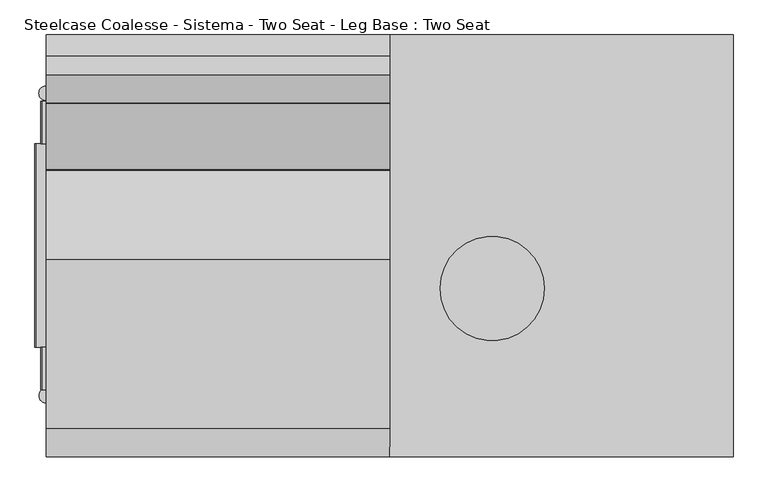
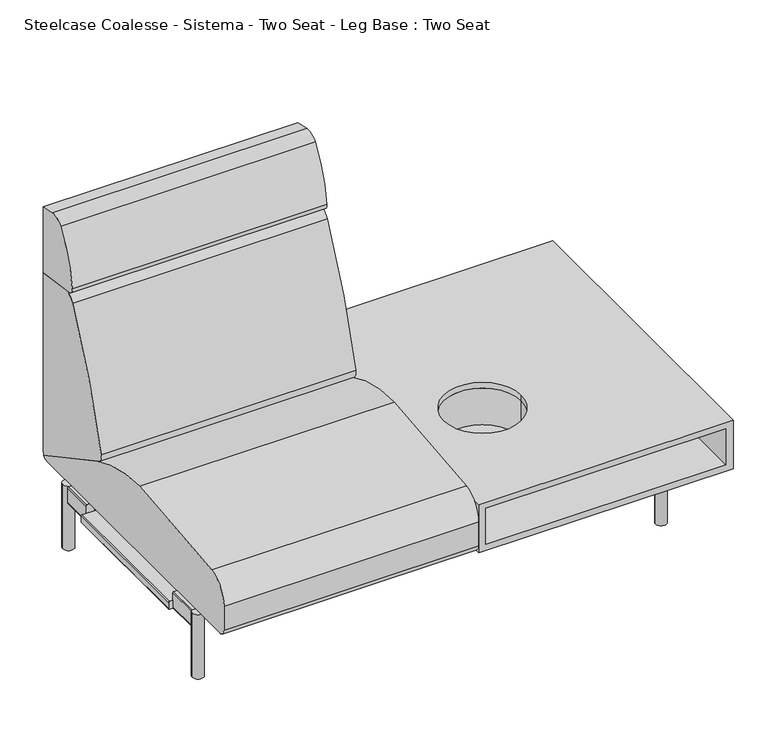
"""IFC4 building model written with IfcOpenShell, lengths in millimetres: furniture geometry, Steelcase Coalesse - Sistema - Two Seat - Leg Base : Two Seat."""

import ifcopenshell
import ifcopenshell.guid

model = None  # the IFC model being written
_history = None  # IfcOwnerHistory: only IFC2X3 demands one
_inside = {}  # id of a spatial element -> (the spatial element, [elements in it])
_under = {}  # id of a project, library or spatial element -> (it, [spatial elements below it])
_declared = {}  # id of a project -> (the project, [libraries it declares])
_typed = {}  # id of a type object -> (the type object, [elements of that type])
_made_of = {}  # id of a material, layer set ... -> (it, [elements and type objects made of it])


def new_model(schema):
    """Start an empty IFC model of exactly this schema.

    Asked for "IFC4X3", IfcOpenShell would pick the latest addendum, in which some entities
    have other attributes; the version numbers below select the first issue.
    IFC2X3 requires an IfcOwnerHistory on every rooted entity: one is made here for all.
    """
    global model, _history
    if schema == "IFC4X3":
        model = ifcopenshell.file(schema_version=(4, 3, 0, 0))
    else:
        model = ifcopenshell.file(schema=schema)
    _inside.clear()
    _under.clear()
    _declared.clear()
    _typed.clear()
    _made_of.clear()
    _history = None
    if model.schema == "IFC2X3":
        org = make("IfcOrganization", Name="unknown")
        user = make(
            "IfcPersonAndOrganization",
            ThePerson=make("IfcPerson", FamilyName="unknown"),
            TheOrganization=org,
        )
        app = make(
            "IfcApplication",
            ApplicationDeveloper=org,
            Version="unknown",
            ApplicationFullName="unknown",
            ApplicationIdentifier="unknown",
        )
        _history = make(
            "IfcOwnerHistory",
            OwningUser=user,
            OwningApplication=app,
            ChangeAction="ADDED",
            CreationDate=0,
        )
    return model


def make(cls, **values):
    """One entity of the class cls with the attributes given. An attribute that is None is left unset."""
    return model.create_entity(
        cls, **{name: value for name, value in values.items() if value is not None}
    )


def rooted(cls, **values):
    """An entity with a GlobalId (a new one), such as an element, a storey or a relation."""
    return make(cls, GlobalId=ifcopenshell.guid.new(), OwnerHistory=_history, **values)


def si_unit(unit_type, name, prefix=None):
    """IfcSIUnit, for example si_unit("LENGTHUNIT", "METRE", prefix="MILLI")."""
    return make("IfcSIUnit", UnitType=unit_type, Prefix=prefix, Name=name)


def assignment(units):
    """IfcUnitAssignment: the units of a project."""
    return None if units is None else make("IfcUnitAssignment", Units=units)


def point(xyz):
    """IfcCartesianPoint."""
    return None if xyz is None else make("IfcCartesianPoint", Coordinates=xyz)


def direction(xyz):
    """IfcDirection."""
    return None if xyz is None else make("IfcDirection", DirectionRatios=xyz)


def frame(location, z_axis=None, x_axis=None):
    """IfcAxis2Placement3D, a coordinate frame: its origin and axes. An axis left out is left unset."""
    return make(
        "IfcAxis2Placement3D",
        Location=point(location),
        Axis=direction(z_axis),
        RefDirection=direction(x_axis),
    )


def frame_2d(location, x_axis=None):
    """IfcAxis2Placement2D, a coordinate frame in the plane: its origin and x axis."""
    return make(
        "IfcAxis2Placement2D", Location=point(location), RefDirection=direction(x_axis)
    )


def origin():
    """The frame at (0, 0, 0) with its axes left unset."""
    return frame((0.0, 0.0, 0.0))


def origin_with_axes():
    """The frame at (0, 0, 0) with the z axis (0, 0, 1) and the x axis (1, 0, 0) written out."""
    return frame((0.0, 0.0, 0.0), z_axis=(0.0, 0.0, 1.0), x_axis=(1.0, 0.0, 0.0))


def place(relative_to, where):
    """IfcLocalPlacement: puts the frame where relative to a parent placement (None: the world)."""
    return make(
        "IfcLocalPlacement", PlacementRelTo=relative_to, RelativePlacement=where
    )


def context(
    kind, dimensions, precision=None, world=None, true_north=None, identifier=None
):
    """IfcGeometricRepresentationContext, for example the 3D "Model" context."""
    return make(
        "IfcGeometricRepresentationContext",
        ContextIdentifier=identifier,
        ContextType=kind,
        CoordinateSpaceDimension=dimensions,
        Precision=precision,
        WorldCoordinateSystem=world,
        TrueNorth=true_north,
    )


def project(units=None, contexts=None):
    """IfcProject with its units and contexts."""
    return rooted(
        "IfcProject",
        Name="project",
        RepresentationContexts=contexts,
        UnitsInContext=assignment(units),
    )


def spatial(cls, under=None, at=None, **own):
    """A site, building, storey or space (cls), placed at a placement, below another one or the project."""
    s = rooted(cls, ObjectPlacement=at, **own)
    if under is not None:
        _under.setdefault(under.id(), (under, []))[1].append(s)
    return s


def polyline(points):
    """IfcPolyline through the points."""
    return make("IfcPolyline", Points=[point(p) for p in points])


def circle_curve(where, radius):
    """IfcCircle in the frame where."""
    return make("IfcCircle", Position=where, Radius=radius)


def trimmed(basis, trim1, trim2, sense, master):
    """IfcTrimmedCurve: the piece of a basis curve between two trims."""
    return make(
        "IfcTrimmedCurve",
        BasisCurve=basis,
        Trim1=trim1,
        Trim2=trim2,
        SenseAgreement=sense,
        MasterRepresentation=master,
    )


def segment(curve, same_sense, transition):
    """IfcCompositeCurveSegment."""
    return make(
        "IfcCompositeCurveSegment",
        Transition=transition,
        SameSense=same_sense,
        ParentCurve=curve,
    )


def composite_curve(segments, self_intersect=None):
    """IfcCompositeCurve: segments joined end to end."""
    return make("IfcCompositeCurve", Segments=segments, SelfIntersect=self_intersect)


def outline(outer, holes=None, kind="AREA"):
    """IfcArbitraryClosedProfileDef: a profile drawn as a closed curve; with holes, ...WithVoids."""
    if holes is None:
        return make("IfcArbitraryClosedProfileDef", ProfileType=kind, OuterCurve=outer)
    return make(
        "IfcArbitraryProfileDefWithVoids",
        ProfileType=kind,
        OuterCurve=outer,
        InnerCurves=holes,
    )


def extrude(swept, where, along, depth):
    """IfcExtrudedAreaSolid: the profile swept, set in the frame where, extruded along a direction by depth."""
    return make(
        "IfcExtrudedAreaSolid",
        SweptArea=swept,
        Position=where,
        ExtrudedDirection=direction(along),
        Depth=depth,
    )


def shape(context_of_items, identifier, shape_type, items):
    """IfcShapeRepresentation: the items that make up one representation, for example the "Body"."""
    return make(
        "IfcShapeRepresentation",
        ContextOfItems=context_of_items,
        RepresentationIdentifier=identifier,
        RepresentationType=shape_type,
        Items=items,
    )


def source(mapping_origin, context_of_items, identifier, shape_type, items):
    """IfcRepresentationMap: a shape defined once, which mapped items show again and again."""
    return make(
        "IfcRepresentationMap",
        MappingOrigin=mapping_origin,
        MappedRepresentation=shape(context_of_items, identifier, shape_type, items),
    )


def transform(
    local_origin,
    x_axis=None,
    y_axis=None,
    z_axis=None,
    scale=None,
    scale2=None,
    scale3=None,
    uniform=True,
):
    """IfcCartesianTransformationOperator3D, or its non-uniform kind. x_axis, y_axis, z_axis: its Axis1, 2, 3."""
    if uniform:
        return make(
            "IfcCartesianTransformationOperator3D",
            Axis1=direction(x_axis),
            Axis2=direction(y_axis),
            LocalOrigin=point(local_origin),
            Scale=scale,
            Axis3=direction(z_axis),
        )
    return make(
        "IfcCartesianTransformationOperator3DnonUniform",
        Axis1=direction(x_axis),
        Axis2=direction(y_axis),
        LocalOrigin=point(local_origin),
        Scale=scale,
        Axis3=direction(z_axis),
        Scale2=scale2,
        Scale3=scale3,
    )


def mapped(mapping_source, mapping_target):
    """IfcMappedItem: shows the shape of a source again, moved by a transform."""
    return make(
        "IfcMappedItem", MappingSource=mapping_source, MappingTarget=mapping_target
    )


def made_of(thing, what):
    """Note that an element or type object is made of a material, layer set ...; save() writes the relation."""
    if what is not None:
        _made_of.setdefault(what.id(), (what, []))[1].append(thing)
    return thing


def element(
    cls,
    number,
    at=None,
    inside=None,
    cuts=None,
    type_object=None,
    material=None,
    context=None,
    identifier="Body",
    shape_type=None,
    held_by="IfcProductDefinitionShape",
    body=None,
    shapes=None,
    **own,
):
    """One element of the class cls, such as IfcWall. Its Tag is "e" and its number.

    at: its placement. inside: the storey or other place that contains it. cuts: it is an
    opening in that element (IfcRelVoidsElement). A single representation is given by context,
    identifier, shape_type and body (its items); several are given by shapes. held_by: the class
    of the entity that holds the representations. save() writes the other relations.
    """
    e = rooted(cls, Tag="e%d" % number, ObjectPlacement=at, **own)
    if body is not None:
        shapes = [shape(context, identifier, shape_type, body)]
    if shapes is not None:
        e.Representation = make(held_by, Representations=shapes)
    if inside is not None:
        _inside.setdefault(inside.id(), (inside, []))[1].append(e)
    if cuts is not None:
        rooted(
            "IfcRelVoidsElement", RelatingBuildingElement=cuts, RelatedOpeningElement=e
        )
    if type_object is not None:
        _typed.setdefault(type_object.id(), (type_object, []))[1].append(e)
    return made_of(e, material)


def aggregate(whole, parts):
    """IfcRelAggregates: a whole, such as a stair, and the parts it consists of."""
    return rooted("IfcRelAggregates", RelatingObject=whole, RelatedObjects=parts)


def save(model, path):
    """Write the relations noted so far, then the file.

    IfcRelAggregates (storeys below a building ...), IfcRelContainedInSpatialStructure (elements
    in a storey), IfcRelDefinesByType, IfcRelAssociatesMaterial and IfcRelDeclares: one each for
    every whole, place, type object, material and project.
    """
    for whole, parts in _under.values():
        aggregate(whole, parts)
    for where, things in _inside.values():
        rooted(
            "IfcRelContainedInSpatialStructure",
            RelatedElements=things,
            RelatingStructure=where,
        )
    for kind, things in _typed.values():
        rooted("IfcRelDefinesByType", RelatedObjects=things, RelatingType=kind)
    for what, things in _made_of.values():
        rooted("IfcRelAssociatesMaterial", RelatedObjects=things, RelatingMaterial=what)
    for by, libraries in _declared.values():
        rooted("IfcRelDeclares", RelatingContext=by, RelatedDefinitions=libraries)
    model.write(path)


def plane_surface(at):
    """IfcPlane: the flat surface through the origin of the frame at, square to its z axis."""
    return make("IfcPlane", Position=at)


def cylinder_surface(at, radius):
    """IfcCylindricalSurface: all points at the distance radius from the z axis of the frame at."""
    return make("IfcCylindricalSurface", Position=at, Radius=radius)


def revolved_surface(curve, axis_point, axis_direction):
    """IfcSurfaceOfRevolution: the curve turned about the line through axis_point along axis_direction."""
    return make(
        "IfcSurfaceOfRevolution",
        SweptCurve=make("IfcArbitraryOpenProfileDef", ProfileType="CURVE", Curve=curve),
        AxisPosition=make("IfcAxis1Placement", Location=point(axis_point), Axis=direction(axis_direction)),
    )


def advanced_brep(points, edges, surfaces, faces):
    """IfcAdvancedBrep: a solid bounded by faces that lie on surfaces and meet in shared edges.

    An edge is (start, end): straight between two places in points (the first is 0);
    or (start, end, curve); or (start, end, curve, False) where it runs against its curve.
    A face is (place in surfaces, loops), or (place, loops, False) where it looks against
    its surface's normal. A loop lists edges by number (the first is 1), with a minus sign
    where the edge is run from its end to its start. The first loop is the outer one.
    """
    corners = [point(p) for p in points]
    vertices = [make("IfcVertexPoint", VertexGeometry=c) for c in corners]
    made = []
    for start, end, *more in edges:
        made.append(
            make(
                "IfcEdgeCurve",
                EdgeStart=vertices[start],
                EdgeEnd=vertices[end],
                EdgeGeometry=more[0] if more else make("IfcPolyline", Points=[corners[start], corners[end]]),
                SameSense=more[1] if len(more) > 1 else True,
            )
        )
    hull = []
    for where, loops, *sense in faces:
        bounds = []
        for j, loop in enumerate(loops):
            ring = [make("IfcOrientedEdge", EdgeElement=made[abs(k) - 1], Orientation=k > 0) for k in loop]
            bounds.append(
                make(
                    "IfcFaceOuterBound" if j == 0 else "IfcFaceBound",
                    Bound=make("IfcEdgeLoop", EdgeList=ring),
                    Orientation=True,
                )
            )
        hull.append(make("IfcAdvancedFace", Bounds=bounds, FaceSurface=surfaces[where], SameSense=sense[0] if sense else True))
    return make("IfcAdvancedBrep", Outer=make("IfcClosedShell", CfsFaces=hull))


def steelcase_coalesse_sistema_two_seat_leg_base_two_seat_b201d908(model_context):
    return source(origin(), model_context, "Body", "SolidModel", [
        extrude(outline(composite_curve([segment(trimmed(circle_curve(frame_2d((989.1765227, 335.9943389)), 6.096), [point((995.2725227, 335.9943389))], [point((983.0805227, 335.9943389))], False, "CARTESIAN"), True, "CONTINUOUS"), segment(trimmed(circle_curve(frame_2d((989.1765227, 335.9943389)), 6.096), [point((983.0805227, 335.9943389))], [point((995.2725227, 335.9943389))], False, "CARTESIAN"), True, "CONTINUOUS")], self_intersect=False)), origin_with_axes(), (0.0, 0.0, 1.0), 4.3662291),
        extrude(outline(composite_curve([segment(trimmed(circle_curve(frame_2d((989.1765227, -327.2630889)), 6.096), [point((995.2725227, -327.2630889))], [point((983.0805227, -327.2630889))], False, "CARTESIAN"), True, "CONTINUOUS"), segment(trimmed(circle_curve(frame_2d((989.1765227, -327.2630889)), 6.096), [point((983.0805227, -327.2630889))], [point((995.2725227, -327.2630889))], False, "CARTESIAN"), True, "CONTINUOUS")], self_intersect=False)), origin_with_axes(), (0.0, 0.0, 1.0), 4.3662291),
        extrude(outline(composite_curve([segment(polyline([(157.0399209, 1001.756375), (201.7356243, 1001.756375)]), True, "CONTINUOUS"), segment(trimmed(circle_curve(frame_2d((201.7356243, 998.708375)), 3.048), [point((201.7356243, 1001.756375))], [point((204.7836243, 998.708375))], False, "CARTESIAN"), True, "CONTINUOUS"), segment(polyline([(204.7836243, 998.708375), (204.7836243, 979.366199)]), True, "CONTINUOUS"), segment(trimmed(circle_curve(frame_2d((201.7356243, 979.366199)), 3.048), [point((204.7836243, 979.366199))], [point((201.7356243, 976.318199))], False, "CARTESIAN"), True, "CONTINUOUS"), segment(polyline([(201.7356243, 976.318199), (157.1249936, 976.318199)]), True, "CONTINUOUS"), segment(trimmed(circle_curve(frame_2d((157.1249936, 979.4512718)), 3.1330728), [point((157.1249936, 976.318199))], [point((153.9919209, 979.4512718))], False, "CARTESIAN"), True, "CONTINUOUS"), segment(polyline([(153.9919209, 979.4512718), (153.9919209, 998.708375)]), True, "CONTINUOUS"), segment(trimmed(circle_curve(frame_2d((157.0399209, 998.708375)), 3.048), [point((153.9919209, 998.708375))], [point((157.0399209, 1001.756375))], False, "CARTESIAN"), True, "CONTINUOUS")], self_intersect=False)), frame((0.0, 222.3519802, 0.0), z_axis=(0.0, 1.0, 0.0), x_axis=(0.0, 0.0, 1.0)), (0.0, 0.0, 1.0), 92.6273161),
        extrude(outline(composite_curve([segment(polyline([(157.0399209, 1001.756375), (201.7356243, 1001.756375)]), True, "CONTINUOUS"), segment(trimmed(circle_curve(frame_2d((201.7356243, 998.708375)), 3.048), [point((201.7356243, 1001.756375))], [point((204.7836243, 998.708375))], False, "CARTESIAN"), True, "CONTINUOUS"), segment(polyline([(204.7836243, 998.708375), (204.7836243, 979.366199)]), True, "CONTINUOUS"), segment(trimmed(circle_curve(frame_2d((201.7356243, 979.366199)), 3.048), [point((204.7836243, 979.366199))], [point((201.7356243, 976.318199))], False, "CARTESIAN"), True, "CONTINUOUS"), segment(polyline([(201.7356243, 976.318199), (157.1249936, 976.318199)]), True, "CONTINUOUS"), segment(trimmed(circle_curve(frame_2d((157.1249936, 979.4512718)), 3.1330728), [point((157.1249936, 976.318199))], [point((153.9919209, 979.4512718))], False, "CARTESIAN"), True, "CONTINUOUS"), segment(polyline([(153.9919209, 979.4512718), (153.9919209, 998.708375)]), True, "CONTINUOUS"), segment(trimmed(circle_curve(frame_2d((157.0399209, 998.708375)), 3.048), [point((153.9919209, 998.708375))], [point((157.0399209, 1001.756375))], False, "CARTESIAN"), True, "CONTINUOUS")], self_intersect=False)), frame((0.0, -314.9792963, 0.0), z_axis=(0.0, 1.0, 0.0), x_axis=(0.0, 0.0, 1.0)), (0.0, 0.0, 1.0), 92.6273161),
        extrude(outline(composite_curve([segment(trimmed(circle_curve(frame_2d((176.3356606, 966.5259944)), 3.048), [point((179.3836606, 966.5259944))], [point((176.3356606, 963.4779944))], False, "CARTESIAN"), True, "CONTINUOUS"), segment(polyline([(176.3356606, 963.4779944), (157.0399209, 963.4779944)]), True, "CONTINUOUS"), segment(trimmed(circle_curve(frame_2d((157.0399209, 966.5259944)), 3.048), [point((157.0399209, 963.4779944))], [point((153.9919209, 966.5259944))], False, "CARTESIAN"), True, "CONTINUOUS"), segment(polyline([(153.9919209, 966.5259944), (153.9919209, 1011.2135501)]), True, "CONTINUOUS"), segment(trimmed(circle_curve(frame_2d((157.056462, 1011.2135501)), 3.0645412), [point((153.9919209, 1011.2135501))], [point((157.056462, 1014.2780913))], False, "CARTESIAN"), True, "CONTINUOUS"), segment(polyline([(157.056462, 1014.2780913), (176.3356606, 1014.2780913)]), True, "CONTINUOUS"), segment(trimmed(circle_curve(frame_2d((176.3356606, 1011.2300913)), 3.048), [point((176.3356606, 1014.2780913))], [point((179.3836606, 1011.2300913))], False, "CARTESIAN"), True, "CONTINUOUS"), segment(polyline([(179.3836606, 1011.2300913), (179.3836606, 966.5259944)]), True, "CONTINUOUS")], self_intersect=False)), frame((0.0, -222.3519802, 0.0), z_axis=(0.0, 1.0, 0.0), x_axis=(0.0, 0.0, 1.0)), (0.0, 0.0, 1.0), 444.7039604),
        extrude(outline(composite_curve([segment(trimmed(circle_curve(frame_2d((989.1765227, 332.3095741)), 16.51), [point((1005.6865227, 332.3095741))], [point((972.6665227, 332.3095741))], False, "CARTESIAN"), True, "CONTINUOUS"), segment(trimmed(circle_curve(frame_2d((989.1765227, 332.3095741)), 16.51), [point((972.6665227, 332.3095741))], [point((1005.6865227, 332.3095741))], False, "CARTESIAN"), True, "CONTINUOUS")], self_intersect=False)), frame((0.0, 0.0, 4.3662291), z_axis=(0.0, 0.0, 1.0), x_axis=(1.0, 0.0, 0.0)), (0.0, 0.0, 1.0), 200.1037709),
        extrude(outline(composite_curve([segment(trimmed(circle_curve(frame_2d((988.7796477, -327.5470741)), 16.51), [point((1005.2896477, -327.5470741))], [point((972.2696477, -327.5470741))], False, "CARTESIAN"), True, "CONTINUOUS"), segment(trimmed(circle_curve(frame_2d((988.7796477, -327.5470741)), 16.51), [point((972.2696477, -327.5470741))], [point((1005.2896477, -327.5470741))], False, "CARTESIAN"), True, "CONTINUOUS")], self_intersect=False)), frame((0.0, 0.0, 4.3662291), z_axis=(0.0, 0.0, 1.0), x_axis=(1.0, 0.0, 0.0)), (0.0, 0.0, 1.0), 200.1037709),
        extrude(outline(composite_curve([segment(polyline([(459.4795619, 985.4592709), (459.4795619, 780.845009), (327.9700683, 799.327463)]), True, "CONTINUOUS"), segment(trimmed(circle_curve(frame_2d((330.6213159, 818.1920697)), 19.05), [point((327.9700683, 799.327463))], [point((311.7521971, 820.8110119))], False, "CARTESIAN"), True, "CONTINUOUS"), segment(trimmed(circle_curve(frame_2d((679.5815991, 769.7580741)), 371.3554516), [point((311.7521971, 820.8110119))], [point((372.1246101, 978.0249014))], False, "CARTESIAN"), True, "CONTINUOUS"), segment(trimmed(circle_curve(frame_2d((405.8944569, 955.1497055)), 40.7881985), [point((372.1246101, 978.0249014))], [point((414.3748002, 995.046584))], False, "CARTESIAN"), True, "CONTINUOUS"), segment(polyline([(414.3748002, 995.046584), (459.4795619, 985.4592709)]), True, "CONTINUOUS")], self_intersect=False)), frame((-374.8034773, 0.0, 0.0), z_axis=(1.0, 0.0, 0.0), x_axis=(0.0, 1.0, 0.0)), (0.0, 0.0, 1.0), 749.3),
        extrude(outline(composite_curve([segment(polyline([(459.4795619, 780.845009), (459.4795619, 228.1929806)]), True, "CONTINUOUS"), segment(trimmed(circle_curve(frame_2d((191.495971, 228.1929806)), 267.983591), [point((459.4795619, 228.1929806))], [point((458.9860775, 211.937276))], False, "CARTESIAN"), True, "CONTINUOUS"), segment(polyline([(458.9860775, 211.937276), (177.4990556, 364.1028799)]), True, "CONTINUOUS"), segment(trimmed(circle_curve(frame_2d((189.5778307, 386.4470781)), 25.4), [point((177.4990556, 364.1028799))], [point((164.9600055, 392.7018911))], False, "CARTESIAN"), True, "CONTINUOUS"), segment(trimmed(circle_curve(frame_2d((1918.112812, -52.7331923)), 1808.8552115), [point((164.9600055, 392.7018911))], [point((310.2880264, 776.0349508))], False, "CARTESIAN"), True, "CONTINUOUS"), segment(trimmed(circle_curve(frame_2d((344.1537133, 758.5785695)), 38.1), [point((310.2880264, 776.0349508))], [point((349.4562085, 796.3077829))], False, "CARTESIAN"), True, "CONTINUOUS"), segment(polyline([(349.4562085, 796.3077829), (459.4795619, 780.845009)]), True, "CONTINUOUS")], self_intersect=False)), frame((-374.8034773, 0.0, 0.0), z_axis=(1.0, 0.0, 0.0), x_axis=(0.0, 1.0, 0.0)), (0.0, 0.0, 1.0), 749.3),
        extrude(outline(composite_curve([segment(trimmed(circle_curve(frame_2d((-438.9184381, 226.822)), 22.352), [point((-438.9184381, 204.47))], [point((-461.2704381, 226.822))], False, "CARTESIAN"), True, "CONTINUOUS"), segment(polyline([(-461.2704381, 226.822), (-461.2704381, 301.4421993)]), True, "CONTINUOUS"), segment(trimmed(circle_curve(frame_2d((-385.0704381, 301.4421993)), 76.2), [point((-461.2704381, 301.4421993))], [point((-398.9277015, 376.3716077))], False, "CARTESIAN"), True, "CONTINUOUS"), segment(trimmed(circle_curve(frame_2d((2.2103559, -1792.6740646)), 2205.8265729), [point((-398.9277015, 376.3716077))], [point((-31.1968175, 412.8995185))], False, "CARTESIAN"), True, "CONTINUOUS"), segment(trimmed(circle_curve(frame_2d((-24.5128424, -28.3829182)), 441.333054), [point((-31.1968175, 412.8995185))], [point((184.5757008, 360.2774035))], False, "CARTESIAN"), True, "CONTINUOUS"), segment(polyline([(184.5757008, 360.2774035), (458.9860775, 211.937276)]), True, "CONTINUOUS"), segment(trimmed(circle_curve(frame_2d((442.3266309, 226.7871991)), 22.3171991), [point((458.9860775, 211.937276))], [point((442.3266309, 204.47))], False, "CARTESIAN"), True, "CONTINUOUS"), segment(polyline([(442.3266309, 204.47), (-438.9184381, 204.47)]), True, "CONTINUOUS")], self_intersect=False)), frame((-374.8034773, 0.0, 0.0), z_axis=(1.0, 0.0, 0.0), x_axis=(0.0, 1.0, 0.0)), (0.0, 0.0, 1.0), 749.3),
        advanced_brep(
        [(469.9892458, -93.7879891, 336.5210652), (725.8391799, -93.7879891, 336.5210652), (484.2332034, -93.7879891, 336.5210652), (711.5952223, -93.7879891, 336.5210652), (469.9892458, -93.7879891, 212.4123377), (725.8391799, -93.7879891, 212.4123377), (484.2332034, -93.7879891, 212.4123377), (711.5952223, -93.7879891, 212.4123377), (484.2332034, -93.7879891, 223.173587), (711.5952223, -93.7879891, 223.173587)],
        [
            (0, 1, circle_curve(frame((597.9142128, -93.7879891, 336.5210652), z_axis=(0.0, 0.0, 1.0), x_axis=(1.0, 0.0, 0.0)), 127.924967)),
            (1, 0, circle_curve(frame((597.9142128, -93.7879891, 336.5210652), z_axis=(0.0, 0.0, 1.0), x_axis=(1.0, 0.0, 0.0)), 127.924967)),
            (2, 3, circle_curve(frame((597.9142128, -93.7879891, 336.5210652), z_axis=(0.0, 0.0, -1.0), x_axis=(1.0, 0.0, 0.0)), 113.6810095)),
            (3, 2, circle_curve(frame((597.9142128, -93.7879891, 336.5210652), z_axis=(0.0, 0.0, -1.0), x_axis=(1.0, 0.0, 0.0)), 113.6810095)),
            (4, 5, circle_curve(frame((597.9142128, -93.7879891, 212.4123377), z_axis=(0.0, 0.0, -1.0), x_axis=(1.0, 0.0, 0.0)), 127.924967)),
            (5, 4, circle_curve(frame((597.9142128, -93.7879891, 212.4123377), z_axis=(0.0, 0.0, -1.0), x_axis=(1.0, 0.0, 0.0)), 127.924967)),
            (6, 7, circle_curve(frame((597.9142128, -93.7879891, 212.4123377), z_axis=(0.0, 0.0, 1.0), x_axis=(1.0, 0.0, 0.0)), 113.6810095)),
            (7, 6, circle_curve(frame((597.9142128, -93.7879891, 212.4123377), z_axis=(0.0, 0.0, 1.0), x_axis=(1.0, 0.0, 0.0)), 113.6810095)),
            (2, 8),
            (8, 6),
            (7, 9),
            (9, 3),
            (0, 4),
            (5, 1),
        ],
        [
            plane_surface(frame((711.5952223, -93.7879891, 336.5210652), z_axis=(0.0, 0.0, 1.0), x_axis=(0.0, -1.0, 0.0))),
            plane_surface(frame((711.5952223, -93.7879891, 212.4123377), z_axis=(0.0, 0.0, -1.0), x_axis=(0.0, 1.0, 0.0))),
            revolved_surface(polyline([(711.5952222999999, -93.7879891, 212.4123377), (711.5952222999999, -93.7879891, 336.5210652)]), (597.9142128, -93.7879891, 212.4123377), (0.0, 0.0, -1.0)),
            cylinder_surface(frame((597.9142128, -93.7879891, 0.0), z_axis=(0.0, 0.0, 1.0), x_axis=(1.0, 0.0, 0.0)), 127.924967),
        ],
        [
            (0, [[1, 2], [3, 4]]),
            (1, [[5, 6], [7, 8]]),
            (2, [[-3, 9, 10, -8, 11, 12]]),
            (2, [[-4, -12, -11, -7, -10, -9]]),
            (3, [[-1, 13, -6, 14]]),
            (3, [[-2, -14, -5, -13]]),
        ],
    ),
        advanced_brep(
        [(1123.7965227, -461.2704381, 354.7774), (374.4965227, -461.2704381, 354.7774), (374.4965227, -461.2704381, 204.47), (1123.7965227, -461.2704381, 204.47), (1102.9069667, -461.2704381, 336.5211742), (1102.9069667, -461.2704381, 223.173587), (396.2928302, -461.2704381, 223.173587), (396.2928302, -461.2704381, 336.5211742), (1123.7965227, 459.4795619, 354.7774), (1123.7965227, 459.4795619, 204.47), (374.4965227, 459.4795619, 204.47), (374.4965227, 459.4795619, 354.7774), (1102.9069667, 459.4795619, 336.5211742), (396.2928302, 459.4795619, 336.5211742), (396.2928302, 459.4795619, 223.173587), (1102.9069667, 459.4795619, 223.173587), (484.2332034, -93.7879891, 354.7774), (711.5952223, -93.7879891, 354.7774), (711.5952223, -93.7879891, 336.5211742), (484.2332034, -93.7879891, 336.5211742)],
        [
            (0, 1),
            (1, 2),
            (2, 3),
            (3, 0),
            (4, 5),
            (5, 6),
            (6, 7),
            (7, 4),
            (8, 9),
            (9, 10),
            (10, 11),
            (11, 8),
            (12, 13),
            (13, 14),
            (14, 15),
            (15, 12),
            (0, 8),
            (11, 1),
            (16, 17, circle_curve(frame((597.9142128, -93.7879891, 354.7774), z_axis=(0.0, 0.0, -1.0), x_axis=(1.0, 0.0, 0.0)), 113.6810095)),
            (17, 16, circle_curve(frame((597.9142128, -93.7879891, 354.7774), z_axis=(0.0, 0.0, -1.0), x_axis=(1.0, 0.0, 0.0)), 113.6810095)),
            (10, 2),
            (9, 3),
            (4, 12),
            (15, 5),
            (14, 6),
            (13, 7),
            (18, 19, circle_curve(frame((597.9142128, -93.7879891, 336.5211742), z_axis=(0.0, 0.0, 1.0), x_axis=(1.0, 0.0, 0.0)), 113.6810095)),
            (19, 18, circle_curve(frame((597.9142128, -93.7879891, 336.5211742), z_axis=(0.0, 0.0, 1.0), x_axis=(1.0, 0.0, 0.0)), 113.6810095)),
            (16, 19),
            (18, 17),
        ],
        [
            plane_surface(frame((378.0346424, -461.2704381, 354.7774), z_axis=(0.0, -1.0, 0.0), x_axis=(-1.0, 0.0, 0.0))),
            plane_surface(frame((378.0346424, 459.4795619, 354.7774), z_axis=(0.0, 1.0, 0.0), x_axis=(1.0, 0.0, 0.0))),
            plane_surface(frame((1123.7965227, -461.2704381, 354.7774), z_axis=(0.0, 0.0, 1.0), x_axis=(0.0, 1.0, 0.0))),
            plane_surface(frame((374.4965227, -461.2704381, 354.7774), z_axis=(-1.0, 0.0, 0.0), x_axis=(0.0, 1.0, 0.0))),
            plane_surface(frame((374.4965227, -461.2704381, 204.47), z_axis=(0.0, 0.0, -1.0), x_axis=(0.0, 1.0, 0.0))),
            plane_surface(frame((1123.7965227, -461.2704381, 204.47), z_axis=(1.0, 0.0, 0.0), x_axis=(0.0, 1.0, 0.0))),
            plane_surface(frame((1102.9069667, -461.2704381, 336.5211742), z_axis=(-1.0, 0.0, 0.0), x_axis=(0.0, 1.0, 0.0))),
            plane_surface(frame((1102.9069667, -461.2704381, 223.173587), z_axis=(0.0, 0.0, 1.0), x_axis=(0.0, 1.0, 0.0))),
            plane_surface(frame((396.2928302, -461.2704381, 223.173587), z_axis=(1.0, 0.0, 0.0), x_axis=(0.0, 1.0, 0.0))),
            plane_surface(frame((396.2928302, -461.2704381, 336.5211742), z_axis=(0.0, 0.0, -1.0), x_axis=(0.0, 1.0, 0.0))),
            revolved_surface(polyline([(711.5952222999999, -93.7879891, 336.5211742), (711.5952222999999, -93.7879891, 354.7774)]), (597.9142128, -93.7879891, 354.7774), (0.0, 0.0, -1.0)),
        ],
        [
            (0, [[1, 2, 3, 4], [5, 6, 7, 8]]),
            (1, [[9, 10, 11, 12], [13, 14, 15, 16]]),
            (2, [[-1, 17, -12, 18], [19, 20]]),
            (3, [[-2, -18, -11, 21]]),
            (4, [[-3, -21, -10, 22]]),
            (5, [[-4, -22, -9, -17]]),
            (6, [[-5, 23, -16, 24]]),
            (7, [[-6, -24, -15, 25]]),
            (8, [[-7, -25, -14, 26]]),
            (9, [[-8, -26, -13, -23], [27, 28]]),
            (10, [[29, -27, 30, -19]]),
            (10, [[-29, -20, -30, -28]]),
        ],
    ),
        extrude(outline(composite_curve([segment(trimmed(circle_curve(frame_2d((-374.8148993, 335.9943389)), 6.096), [point((-380.9108993, 335.9943389))], [point((-368.7188993, 335.9943389))], False, "CARTESIAN"), True, "CONTINUOUS"), segment(trimmed(circle_curve(frame_2d((-374.8148993, 335.9943389)), 6.096), [point((-368.7188993, 335.9943389))], [point((-380.9108993, 335.9943389))], False, "CARTESIAN"), True, "CONTINUOUS")], self_intersect=False)), origin_with_axes(), (0.0, 0.0, 1.0), 4.3662291),
        extrude(outline(composite_curve([segment(trimmed(circle_curve(frame_2d((-374.8148993, -327.2630889)), 6.096), [point((-380.9108993, -327.2630889))], [point((-368.7188993, -327.2630889))], False, "CARTESIAN"), True, "CONTINUOUS"), segment(trimmed(circle_curve(frame_2d((-374.8148993, -327.2630889)), 6.096), [point((-368.7188993, -327.2630889))], [point((-380.9108993, -327.2630889))], False, "CARTESIAN"), True, "CONTINUOUS")], self_intersect=False)), origin_with_axes(), (0.0, 0.0, 1.0), 4.3662291),
        extrude(outline(composite_curve([segment(trimmed(circle_curve(frame_2d((157.0399209, -384.3467516)), 3.048), [point((157.0399209, -387.3947516))], [point((153.9919209, -384.3467516))], False, "CARTESIAN"), True, "CONTINUOUS"), segment(polyline([(153.9919209, -384.3467516), (153.9919209, -365.0896485)]), True, "CONTINUOUS"), segment(trimmed(circle_curve(frame_2d((157.1249936, -365.0896485)), 3.1330728), [point((153.9919209, -365.0896485))], [point((157.1249936, -361.9565757))], False, "CARTESIAN"), True, "CONTINUOUS"), segment(polyline([(157.1249936, -361.9565757), (201.7356243, -361.9565757)]), True, "CONTINUOUS"), segment(trimmed(circle_curve(frame_2d((201.7356243, -365.0045757)), 3.048), [point((201.7356243, -361.9565757))], [point((204.7836243, -365.0045757))], False, "CARTESIAN"), True, "CONTINUOUS"), segment(polyline([(204.7836243, -365.0045757), (204.7836243, -384.3467516)]), True, "CONTINUOUS"), segment(trimmed(circle_curve(frame_2d((201.7356243, -384.3467516)), 3.048), [point((204.7836243, -384.3467516))], [point((201.7356243, -387.3947516))], False, "CARTESIAN"), True, "CONTINUOUS"), segment(polyline([(201.7356243, -387.3947516), (157.0399209, -387.3947516)]), True, "CONTINUOUS")], self_intersect=False)), frame((0.0, 222.3519802, 0.0), z_axis=(0.0, 1.0, 0.0), x_axis=(0.0, 0.0, 1.0)), (0.0, 0.0, 1.0), 92.6273161),
        extrude(outline(composite_curve([segment(trimmed(circle_curve(frame_2d((157.0399209, -384.3467516)), 3.048), [point((157.0399209, -387.3947516))], [point((153.9919209, -384.3467516))], False, "CARTESIAN"), True, "CONTINUOUS"), segment(polyline([(153.9919209, -384.3467516), (153.9919209, -365.0896485)]), True, "CONTINUOUS"), segment(trimmed(circle_curve(frame_2d((157.1249936, -365.0896485)), 3.1330728), [point((153.9919209, -365.0896485))], [point((157.1249936, -361.9565757))], False, "CARTESIAN"), True, "CONTINUOUS"), segment(polyline([(157.1249936, -361.9565757), (201.7356243, -361.9565757)]), True, "CONTINUOUS"), segment(trimmed(circle_curve(frame_2d((201.7356243, -365.0045757)), 3.048), [point((201.7356243, -361.9565757))], [point((204.7836243, -365.0045757))], False, "CARTESIAN"), True, "CONTINUOUS"), segment(polyline([(204.7836243, -365.0045757), (204.7836243, -384.3467516)]), True, "CONTINUOUS"), segment(trimmed(circle_curve(frame_2d((201.7356243, -384.3467516)), 3.048), [point((204.7836243, -384.3467516))], [point((201.7356243, -387.3947516))], False, "CARTESIAN"), True, "CONTINUOUS"), segment(polyline([(201.7356243, -387.3947516), (157.0399209, -387.3947516)]), True, "CONTINUOUS")], self_intersect=False)), frame((0.0, -314.9792963, 0.0), z_axis=(0.0, 1.0, 0.0), x_axis=(0.0, 0.0, 1.0)), (0.0, 0.0, 1.0), 92.6273161),
        extrude(outline(composite_curve([segment(polyline([(179.3836606, -352.1643711), (179.3836606, -396.8684679)]), True, "CONTINUOUS"), segment(trimmed(circle_curve(frame_2d((176.3356606, -396.8684679)), 3.048), [point((179.3836606, -396.8684679))], [point((176.3356606, -399.9164679))], False, "CARTESIAN"), True, "CONTINUOUS"), segment(polyline([(176.3356606, -399.9164679), (157.056462, -399.9164679)]), True, "CONTINUOUS"), segment(trimmed(circle_curve(frame_2d((157.056462, -396.8519268)), 3.0645412), [point((157.056462, -399.9164679))], [point((153.9919209, -396.8519268))], False, "CARTESIAN"), True, "CONTINUOUS"), segment(polyline([(153.9919209, -396.8519268), (153.9919209, -352.1643711)]), True, "CONTINUOUS"), segment(trimmed(circle_curve(frame_2d((157.0399209, -352.1643711)), 3.048), [point((153.9919209, -352.1643711))], [point((157.0399209, -349.1163711))], False, "CARTESIAN"), True, "CONTINUOUS"), segment(polyline([(157.0399209, -349.1163711), (176.3356606, -349.1163711)]), True, "CONTINUOUS"), segment(trimmed(circle_curve(frame_2d((176.3356606, -352.1643711)), 3.048), [point((176.3356606, -349.1163711))], [point((179.3836606, -352.1643711))], False, "CARTESIAN"), True, "CONTINUOUS")], self_intersect=False)), frame((0.0, -222.3519802, 0.0), z_axis=(0.0, 1.0, 0.0), x_axis=(0.0, 0.0, 1.0)), (0.0, 0.0, 1.0), 444.7039604),
        extrude(outline(composite_curve([segment(trimmed(circle_curve(frame_2d((-374.8148993, 332.3095741)), 16.51), [point((-391.3248993, 332.3095741))], [point((-358.3048993, 332.3095741))], False, "CARTESIAN"), True, "CONTINUOUS"), segment(trimmed(circle_curve(frame_2d((-374.8148993, 332.3095741)), 16.51), [point((-358.3048993, 332.3095741))], [point((-391.3248993, 332.3095741))], False, "CARTESIAN"), True, "CONTINUOUS")], self_intersect=False)), frame((0.0, 0.0, 4.3662291), z_axis=(0.0, 0.0, 1.0), x_axis=(1.0, 0.0, 0.0)), (0.0, 0.0, 1.0), 200.1037709),
        extrude(outline(composite_curve([segment(trimmed(circle_curve(frame_2d((-374.4180243, -327.5470741)), 16.51), [point((-390.9280243, -327.5470741))], [point((-357.9080243, -327.5470741))], False, "CARTESIAN"), True, "CONTINUOUS"), segment(trimmed(circle_curve(frame_2d((-374.4180243, -327.5470741)), 16.51), [point((-357.9080243, -327.5470741))], [point((-390.9280243, -327.5470741))], False, "CARTESIAN"), True, "CONTINUOUS")], self_intersect=False)), frame((0.0, 0.0, 4.3662291), z_axis=(0.0, 0.0, 1.0), x_axis=(1.0, 0.0, 0.0)), (0.0, 0.0, 1.0), 200.1037709),
    ])


if __name__ == "__main__":
    model = new_model("IFC4")
    model_context = context("Model", 3, world=origin())
    ifc_project = project(units=[si_unit("LENGTHUNIT", "METRE", prefix="MILLI")], contexts=[model_context])
    site = spatial("IfcSite", under=ifc_project)
    building = spatial("IfcBuilding", under=site)
    placement = place(None, origin())
    steelcase_coalesse_sistema_two_seat_leg_base_two_seat_shape = steelcase_coalesse_sistema_two_seat_leg_base_two_seat_b201d908(model_context)
    element("IfcFurniture", 1, ObjectType="Steelcase Coalesse - Sistema - Two Seat - Leg Base : Two Seat", at=placement, inside=building, context=model_context, shape_type="MappedRepresentation", body=[
        mapped(steelcase_coalesse_sistema_two_seat_leg_base_two_seat_shape, transform((0.0, 0.0, 0.0), x_axis=(1.0, 0.0, 0.0), y_axis=(0.0, 1.0, 0.0), z_axis=(0.0, 0.0, 1.0))),
    ])
    save(model, "model.ifc")
